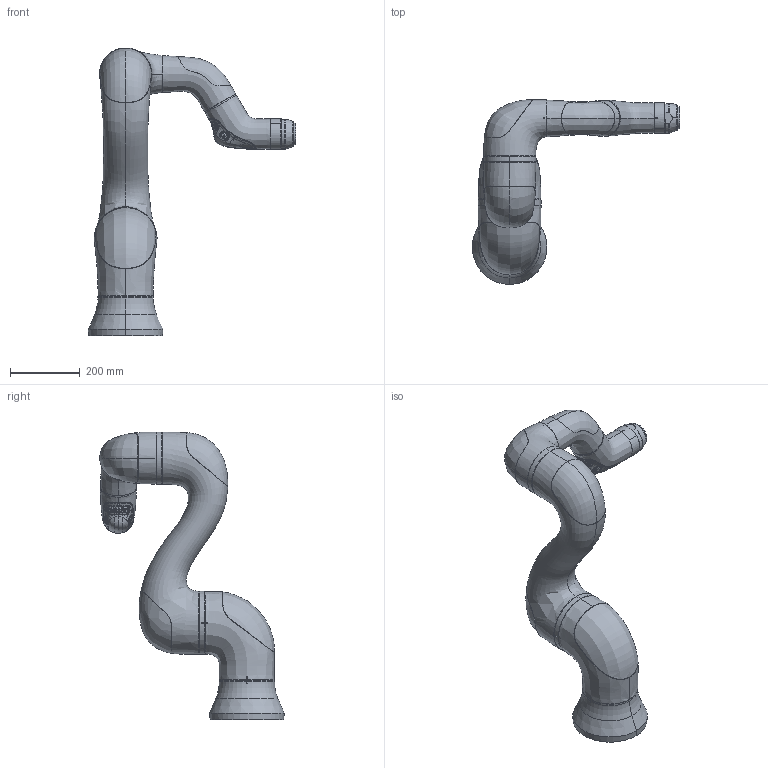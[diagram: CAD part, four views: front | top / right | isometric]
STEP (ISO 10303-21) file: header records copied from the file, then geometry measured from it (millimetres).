
FILE_DESCRIPTION (( 'STEP AP203' ), '1' );
FILE_NAME ('YL015-01.STEP', '2020-05-28T10:12:34', ( 'fulluser' ), ( '' ), 'SwSTEP 2.0', 'SolidWorks 2017', '' );
FILE_SCHEMA (( 'CONFIG_CONTROL_DESIGN' ));
Length unit declared in the file: millimetre
Products named in the file (32): Lower frame; Base; Wrist; Upper frame; 000048967_PILOT_1; YL015-01; 000048971_PILOT_1; 000048909_PILOT_1; 000048965_PILOT_1; 000049313_PILOT_ARM_PIPE_COVER; 000048819_PILOT_LOWER_FRAME_COVER; 000048956_PILOT_1; 000048999_PILOT_1; 000048961_PILOT_1; 000048976_PILOT_1; 000049301_PILOT_UPPER_FRAME_UPPER_COVER; Arm frame; 000049307_PILOT_ARM_FRAME_COVER; 000048973_PILOT_1; Arm pipe; 000049307_PILOT_1; 000048966_PILOT_1; 000048979_PILOT_TS AND REDUCER; 000049301_PILOT_1; Mechanical interface; 000049313_PILOT_1; 000048819_PILOT_1; 000048771_PILOT_1; 000048960_PILOT_1; 000048962_PILOT_1; 000049301_PILOT_UPPER_FRAME_LOWER_COVER; 000048972_PILOT_1
Assembly tree (31 placements, depth 4):
  YL015-01
    Base
      000048771_PILOT_1
    Lower frame
      000048819_PILOT_1
      000048819_PILOT_LOWER_FRAME_COVER
    Upper frame
      000049301_PILOT_1
      000049301_PILOT_UPPER_FRAME_LOWER_COVER
      000049301_PILOT_UPPER_FRAME_UPPER_COVER
    Arm frame
      000049307_PILOT_1
      000049307_PILOT_ARM_FRAME_COVER
    Mechanical interface
      000048909_PILOT_1
      000048979_PILOT_TS AND REDUCER
        000048999_PILOT_1
    Wrist
      000048956_PILOT_1
      000048960_PILOT_1
        000048976_PILOT_1
        000048967_PILOT_1
        000048966_PILOT_1
        000048973_PILOT_1
        000048971_PILOT_1
        000048972_PILOT_1
        000048965_PILOT_1
        000048962_PILOT_1
        000048961_PILOT_1
    Arm pipe
      000049313_PILOT_1
      000049313_PILOT_ARM_PIPE_COVER
Bounding box: 596.97 x 530.68 x 828.4 mm (x, y, z)
Volume: 25638153.4 mm3; surface area: 1251929.2 mm2
Topology: 22 solids, 22 shells, 1885 faces, 5349 edges, 3508 vertices
Faces by surface type: bspline 909, plane 573, cylinder 358, cone 36, torus 9
Entity records: 236253 total; most frequent: CARTESIAN_POINT 193689, ORIENTED_EDGE 10666, EDGE_CURVE 5333, DIRECTION 4029, B_SPLINE_CURVE_WITH_KNOTS 3513, VERTEX_POINT 3508, EDGE_LOOP 1929, FACE_OUTER_BOUND 1885
